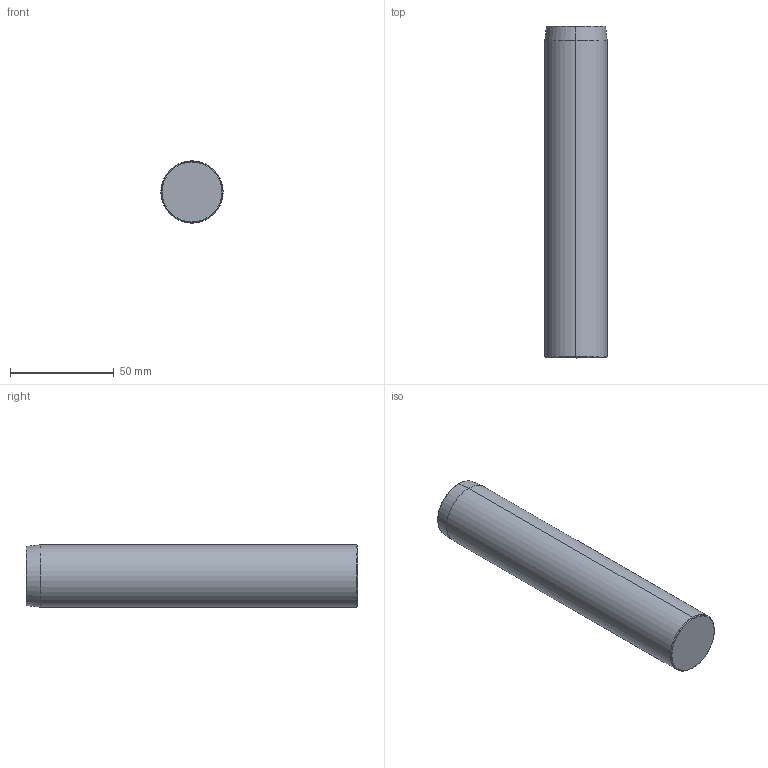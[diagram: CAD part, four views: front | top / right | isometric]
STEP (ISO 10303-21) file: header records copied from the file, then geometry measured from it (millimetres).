
FILE_DESCRIPTION( ( 'STEP AP203' ), '1' );
FILE_NAME( 'D:/Delta 3 D/D09/D09 - 30x160.step', '2002-12-31T22:31:11', ( ' ' ), ( ' ' ), 'XStep 1.0', ' ', ' ' );
FILE_SCHEMA( ( 'CONFIG_CONTROL_DESIGN' ) );
Length unit declared in the file: metre
Products named in the file (1): 1
Bounding box: 30 x 160 x 30 mm (x, y, z)
Volume: 112844.7 mm3; surface area: 16372.5 mm2
Topology: 1 solids, 1 shells, 20 faces, 38 edges, 20 vertices
Faces by surface type: bspline 12, revolution 8
Entity records: 665 total; most frequent: CARTESIAN_POINT 281, ORIENTED_EDGE 76, DIRECTION 58, EDGE_CURVE 38, AXIS2_PLACEMENT_3D 21, ADVANCED_FACE 20, FACE_OUTER_BOUND 20, EDGE_LOOP 20
